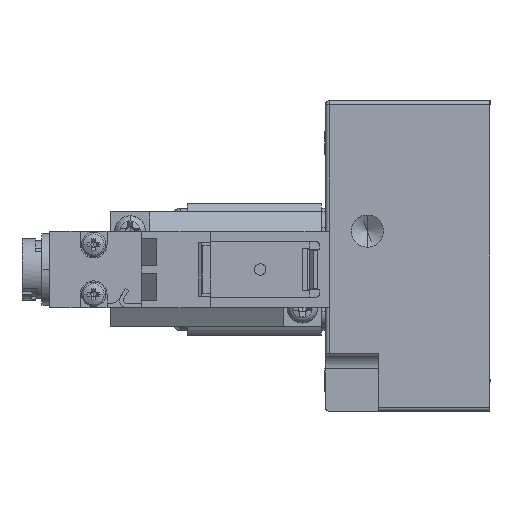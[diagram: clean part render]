
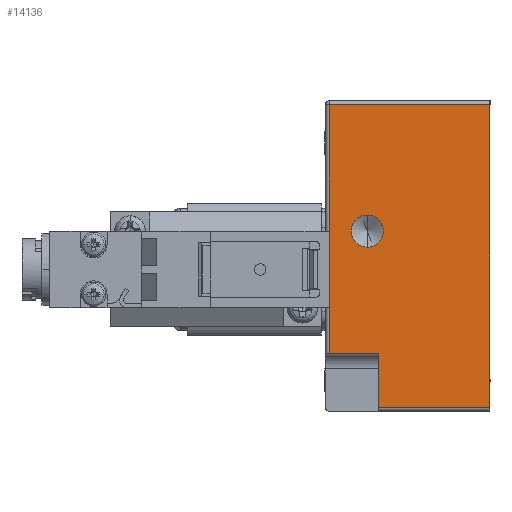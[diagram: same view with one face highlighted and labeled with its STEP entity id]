
A CAD part, left-side view. The second image highlights one B-rep face of the part: STEP entity #14136.
In plain terms, the highlighted planar face has unit normal (-1, 0, 0).
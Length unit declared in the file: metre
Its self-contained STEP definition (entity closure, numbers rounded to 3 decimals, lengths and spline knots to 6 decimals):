
#53 = EDGE_CURVE ( 'NONE', #12748, #4040, #17053, .T. ) ;
#150 = CARTESIAN_POINT ( 'NONE',  ( -0.028, -0.011, 0.0215 ) ) ;
#1361 = DIRECTION ( 'NONE',  ( 0., -1., 0. ) ) ;
#2165 = CARTESIAN_POINT ( 'NONE',  ( -0.028, -0.007, -0.018 ) ) ;
#2501 = CIRCLE ( 'NONE', #10904, 0.0021 ) ;
#2535 = ORIENTED_EDGE ( 'NONE', *, *, #16528, .T. ) ;
#2693 = CARTESIAN_POINT ( 'NONE',  ( -0.028, -0.0215, 0.00175 ) ) ;
#3214 = VECTOR ( 'NONE', #3484, 1. ) ;
#3484 = DIRECTION ( 'NONE',  ( 0., 0., -1. ) ) ;
#3674 = CARTESIAN_POINT ( 'NONE',  ( -0.028, -0.011, -0.011 ) ) ;
#4040 = VERTEX_POINT ( 'NONE', #14909 ) ;
#4569 = DIRECTION ( 'NONE',  ( -1., 0., 0. ) ) ;
#4803 = EDGE_CURVE ( 'NONE', #12050, #18564, #16591, .T. ) ;
#4944 = VERTEX_POINT ( 'NONE', #2165 ) ;
#4987 = EDGE_LOOP ( 'NONE', ( #14623, #13987, #16480, #7326, #2535, #11074 ) ) ;
#5401 = CARTESIAN_POINT ( 'NONE',  ( -0.028, -0.0055, 0.0071 ) ) ;
#5973 = DIRECTION ( 'NONE',  ( 0., 0., -1. ) ) ;
#6738 = CARTESIAN_POINT ( 'NONE',  ( -0.028, -0.0055, 0.005 ) ) ;
#6819 = CARTESIAN_POINT ( 'NONE',  ( -0.028, -0.007, -0.011 ) ) ;
#7145 = DIRECTION ( 'NONE',  ( 0., -1., 0. ) ) ;
#7326 = ORIENTED_EDGE ( 'NONE', *, *, #19418, .T. ) ;
#7814 = VERTEX_POINT ( 'NONE', #11235 ) ;
#8452 = DIRECTION ( 'NONE',  ( 0., 0., 1. ) ) ;
#8596 = FACE_OUTER_BOUND ( 'NONE', #4987, .T. ) ;
#8700 = CARTESIAN_POINT ( 'NONE',  ( -0.028, -0.0005, 0.0215 ) ) ;
#8959 = LINE ( 'NONE', #3674, #12904 ) ;
#9164 = DIRECTION ( 'NONE',  ( -1., 0., 0. ) ) ;
#9612 = DIRECTION ( 'NONE',  ( 0., 0., 1. ) ) ;
#9625 = EDGE_CURVE ( 'NONE', #18564, #12050, #2501, .T. ) ;
#10046 = CARTESIAN_POINT ( 'NONE',  ( -0.028, -0.0055, 0.0029 ) ) ;
#10904 = AXIS2_PLACEMENT_3D ( 'NONE', #14770, #4569, #16505 ) ;
#11074 = ORIENTED_EDGE ( 'NONE', *, *, #20043, .T. ) ;
#11235 = CARTESIAN_POINT ( 'NONE',  ( -0.028, -0.0215, 0.0215 ) ) ;
#12050 = VERTEX_POINT ( 'NONE', #5401 ) ;
#12109 = LINE ( 'NONE', #2693, #20156 ) ;
#12496 = VECTOR ( 'NONE', #5973, 1. ) ;
#12512 = AXIS2_PLACEMENT_3D ( 'NONE', #15886, #9164, #21088 ) ;
#12748 = VERTEX_POINT ( 'NONE', #8700 ) ;
#12904 = VECTOR ( 'NONE', #7145, 1. ) ;
#13305 = CARTESIAN_POINT ( 'NONE',  ( -0.028, -0.0005, 0.00175 ) ) ;
#13361 = VECTOR ( 'NONE', #13882, 1. ) ;
#13878 = LINE ( 'NONE', #150, #13361 ) ;
#13882 = DIRECTION ( 'NONE',  ( 0., 1., 0. ) ) ;
#13987 = ORIENTED_EDGE ( 'NONE', *, *, #53, .T. ) ;
#14136 = ADVANCED_FACE ( 'NONE', ( #17637, #8596 ), #21011, .T. ) ;
#14623 = ORIENTED_EDGE ( 'NONE', *, *, #21787, .T. ) ;
#14770 = CARTESIAN_POINT ( 'NONE',  ( -0.028, -0.0055, 0.005 ) ) ;
#14909 = CARTESIAN_POINT ( 'NONE',  ( -0.028, -0.0005, -0.011 ) ) ;
#15057 = VERTEX_POINT ( 'NONE', #20022 ) ;
#15076 = CARTESIAN_POINT ( 'NONE',  ( -0.028, -0.011, -0.018 ) ) ;
#15886 = CARTESIAN_POINT ( 'NONE',  ( -0.028, -0.0215, -0.018 ) ) ;
#16480 = ORIENTED_EDGE ( 'NONE', *, *, #18806, .T. ) ;
#16505 = DIRECTION ( 'NONE',  ( 0., 0., 1. ) ) ;
#16528 = EDGE_CURVE ( 'NONE', #4944, #15057, #17011, .T. ) ;
#16591 = CIRCLE ( 'NONE', #16658, 0.0021 ) ;
#16658 = AXIS2_PLACEMENT_3D ( 'NONE', #6738, #18650, #8452 ) ;
#16906 = LINE ( 'NONE', #20675, #3214 ) ;
#17011 = LINE ( 'NONE', #15076, #21034 ) ;
#17053 = LINE ( 'NONE', #13305, #12496 ) ;
#17136 = ORIENTED_EDGE ( 'NONE', *, *, #4803, .F. ) ;
#17220 = ORIENTED_EDGE ( 'NONE', *, *, #9625, .F. ) ;
#17274 = VERTEX_POINT ( 'NONE', #6819 ) ;
#17637 = FACE_BOUND ( 'NONE', #19177, .T. ) ;
#18564 = VERTEX_POINT ( 'NONE', #10046 ) ;
#18650 = DIRECTION ( 'NONE',  ( -1., 0., 0. ) ) ;
#18806 = EDGE_CURVE ( 'NONE', #4040, #17274, #8959, .T. ) ;
#19177 = EDGE_LOOP ( 'NONE', ( #17136, #17220 ) ) ;
#19418 = EDGE_CURVE ( 'NONE', #17274, #4944, #16906, .T. ) ;
#20022 = CARTESIAN_POINT ( 'NONE',  ( -0.028, -0.0215, -0.018 ) ) ;
#20043 = EDGE_CURVE ( 'NONE', #15057, #7814, #12109, .T. ) ;
#20156 = VECTOR ( 'NONE', #9612, 1. ) ;
#20675 = CARTESIAN_POINT ( 'NONE',  ( -0.028, -0.007, 0.00175 ) ) ;
#21011 = PLANE ( 'NONE',  #12512 ) ;
#21034 = VECTOR ( 'NONE', #1361, 1. ) ;
#21088 = DIRECTION ( 'NONE',  ( 0., 0., 1. ) ) ;
#21787 = EDGE_CURVE ( 'NONE', #7814, #12748, #13878, .T. ) ;
